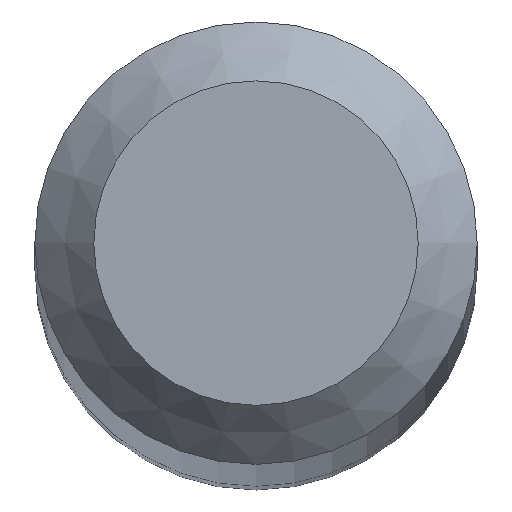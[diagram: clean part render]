
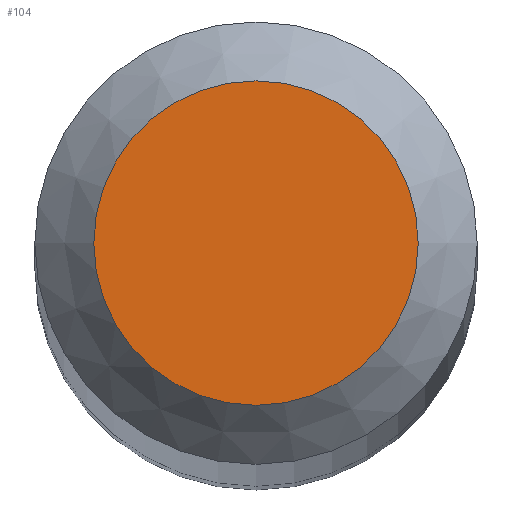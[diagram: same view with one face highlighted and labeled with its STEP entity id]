
A CAD part, top view. The second image highlights one B-rep face of the part: STEP entity #104.
In plain terms, the highlighted planar face has unit normal (0, 0, 1).
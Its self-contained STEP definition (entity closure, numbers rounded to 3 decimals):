
#88=CARTESIAN_POINT('',(1.1,0.0,100.0));
#89=DIRECTION('',(0.0,0.0,1.0));
#90=DIRECTION('',(1.0,0.0,0.0));
#91=AXIS2_PLACEMENT_3D('',#88,#89,#90);
#92=PLANE('',#91);
#93=CARTESIAN_POINT('',(-1.1,0.0,100.0));
#94=VERTEX_POINT('',#93);
#95=CARTESIAN_POINT('',(0.0,0.0,100.0));
#96=DIRECTION('',(0.0,0.0,-1.0));
#97=DIRECTION('',(-1.0,0.0,0.0));
#98=AXIS2_PLACEMENT_3D('',#95,#96,#97);
#99=CIRCLE('',#98,1.1);
#100=EDGE_CURVE('',#94,#94,#99,.T.);
#101=ORIENTED_EDGE('',*,*,#100,.F.);
#102=EDGE_LOOP('',(#101));
#103=FACE_OUTER_BOUND('',#102,.T.);
#104=ADVANCED_FACE('',(#103),#92,.T.);
